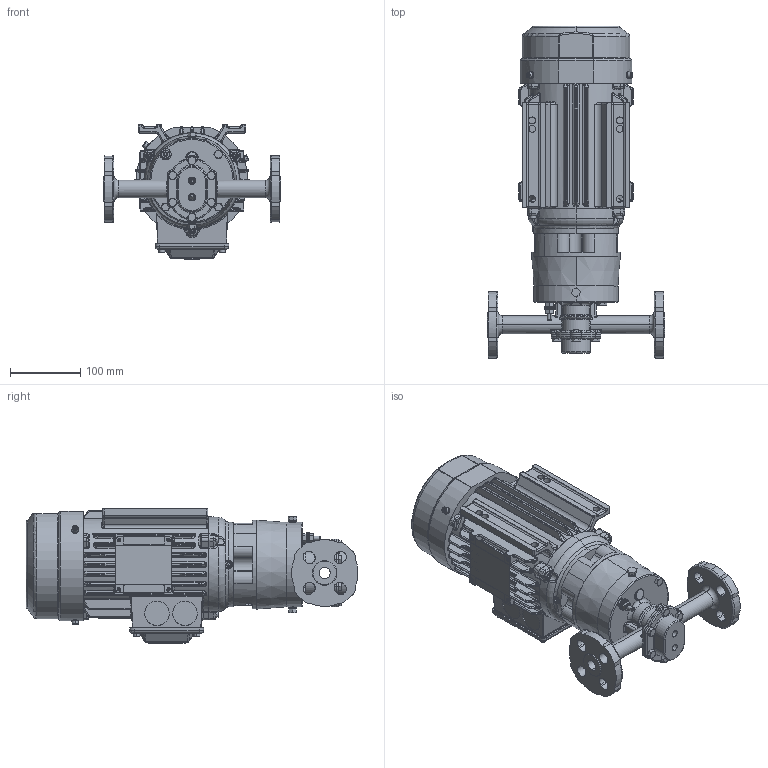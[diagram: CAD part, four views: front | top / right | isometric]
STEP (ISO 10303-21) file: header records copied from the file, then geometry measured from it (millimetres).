
FILE_DESCRIPTION (( 'STEP AP214' ), '1' );
FILE_NAME ('E05M FLNG 80F.STEP', '2025-03-06T12:13:20', ( '' ), ( '' ), 'SwSTEP 2.0', 'SolidWorks 2021', '' );
FILE_SCHEMA (( 'AUTOMOTIVE_DESIGN' ));
Length unit declared in the file: inch
Products named in the file (1): E05M FLNG 80F
Bounding box: 253.88 x 474.12 x 192 mm (x, y, z)
Volume: 6172955.1 mm3; surface area: 547176.2 mm2
Topology: 23 solids, 43 shells, 3387 faces, 8391 edges, 5009 vertices
Faces by surface type: cylinder 1267, plane 872, bspline 538, cone 325, torus 288, sphere 97
Entity records: 128970 total; most frequent: CARTESIAN_POINT 50754, ORIENTED_EDGE 16456, DIRECTION 15361, EDGE_CURVE 8228, AXIS2_PLACEMENT_3D 6107, VERTEX_POINT 5002, EDGE_LOOP 3624, FACE_OUTER_BOUND 3387
